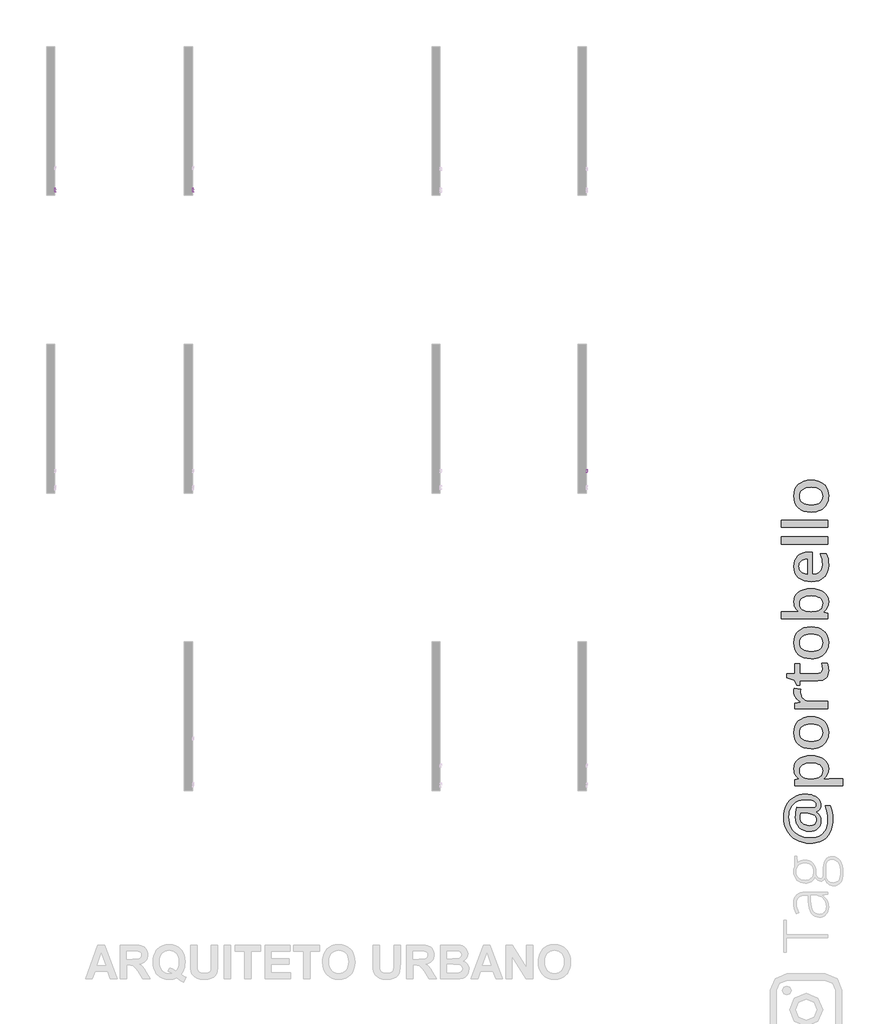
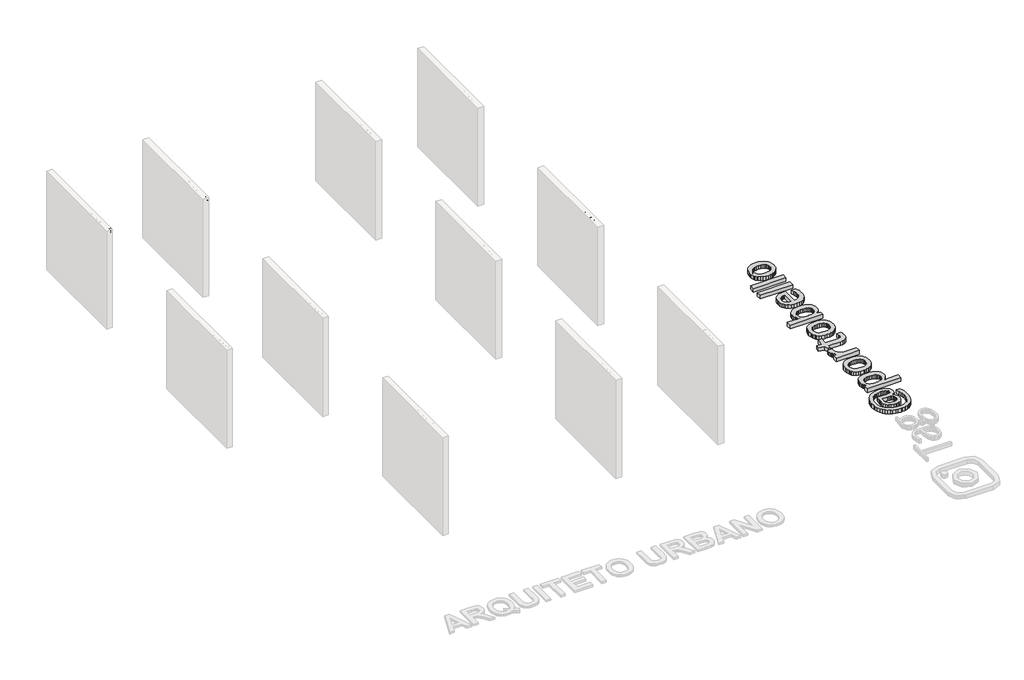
# One storey, part 5 of 8: 4 proxies.
"""IFC4 building model written with IfcOpenShell, lengths in millimetres."""

from ifc_helpers import new_model, si_unit, frame, origin, origin_with_axes, place, context, project, spatial, polyline, outline, extrude, element, save

model = new_model("IFC4")

# Units and contexts
model_context = context("Model", 3, world=origin())
ifc_project = project(units=[si_unit("LENGTHUNIT", "METRE", prefix="MILLI")], contexts=[model_context])

# Site, building, storey
site = spatial("IfcSite", under=ifc_project)
building = spatial("IfcBuilding", under=site)
storey = spatial("IfcBuildingStorey", under=building, Name="PORTOBELLO - SHOWROOM", Elevation=0.0)

# Proxies
placement = place(None, origin())
element("IfcBuildingElementProxy", 1, Name="10mm Arial", ObjectType="10mm Arial", at=placement, inside=storey, context=model_context, shape_type="SweptSolid", body=[
    extrude(outline(polyline([(1630.3795747, 2583.362681), (1642.9366134, 2583.362681), (1646.9833154, 2570.7933795), (1656.8670783, 2562.8471284), (1671.9257146, 2559.8182333), (1685.0468391, 2562.1113644), (1693.5203878, 2568.4144093), (1696.3040282, 2576.838907), (1694.2193635, 2584.6747934), (1685.6845013, 2590.3769644), (1667.4007661, 2595.171693), (1647.7190794, 2601.3643733), (1637.0382388, 2610.708576), (1633.5188343, 2623.1920383), (1637.8721046, 2637.4045461), (1650.5885589, 2647.4354618), (1669.2033879, 2650.8567644), (1689.0690156, 2647.2760463), (1702.3127674, 2636.7546212), (1707.2914371, 2621.0337973), (1694.7343983, 2621.0337973), (1692.4290045, 2628.5263273), (1687.6220131, 2633.9341926), (1669.6938972, 2638.2997256), (1651.7167304, 2633.9832435), (1646.0758731, 2623.5599203), (1650.0735241, 2614.8533798), (1670.576814, 2607.8390964), (1692.7968865, 2601.5360516), (1704.9492551, 2591.357983), (1708.861067, 2577.157738), (1704.3606439, 2562.1358899), (1691.4111977, 2551.1730064), (1672.416224, 2547.2611945), (1649.987685, 2551.4795748), (1635.7997027, 2564.1837663), (1630.3795747, 2583.362681)])), frame((-16732.9960483, 0.0, 0.0), z_axis=(1.0, 0.0, 0.0), x_axis=(0.0, 1.0, 0.0)), (0.0, 0.0, 1.0), 20.0),
    extrude(outline(polyline([(1773.2158906, 2558.2486035), (1761.0389966, 2549.7382666), (1747.5867783, 2547.2611945), (1737.0929444, 2548.7511166), (1729.3520941, 2553.2208829), (1724.5788252, 2560.0083057), (1722.9877356, 2568.4511975), (1725.3912313, 2578.3840113), (1731.7065389, 2585.5944984), (1740.4989185, 2589.7147768), (1751.3637001, 2591.6032377), (1773.1423142, 2595.9197198), (1773.2158906, 2598.7156229), (1769.7577999, 2607.9862492), (1755.8763859, 2611.6160182), (1743.1721944, 2609.2002598), (1737.1144042, 2600.6286093), (1724.5573654, 2602.1982392), (1729.9897562, 2614.4609723), (1740.9281142, 2621.646934), (1757.4950667, 2624.173057), (1772.7131186, 2621.9412396), (1781.3092945, 2616.3371705), (1785.1597928, 2607.8145709), (1785.7729294, 2596.827162), (1785.7729294, 2581.20444), (1786.4105915, 2559.3890376), (1788.9121891, 2548.8308244), (1776.3551503, 2548.8308244), (1773.2158906, 2558.2486035)]), holes=[polyline([(1773.2158906, 2583.362681), (1752.9578554, 2579.5121828), (1742.1543875, 2577.4765691), (1737.261557, 2574.1656311), (1735.5447743, 2569.3341142), (1739.284908, 2562.5405601), (1750.2600541, 2559.8182333), (1762.9642457, 2562.8226029), (1771.1557515, 2570.0944037), (1773.1423142, 2579.8064884), (1773.2158906, 2583.362681)])]), frame((-16732.9960483, 0.0, 0.0), z_axis=(1.0, 0.0, 0.0), x_axis=(0.0, 1.0, 0.0)), (0.0, 0.0, 1.0), 20.0),
    extrude(outline(polyline([(1806.1781174, 2548.8308244), (1806.1781174, 2610.0463884), (1795.1907085, 2610.0463884), (1795.1907085, 2622.6034272), (1806.1781174, 2622.6034272), (1806.1781174, 2630.0346435), (1807.5024926, 2640.5070176), (1813.9281648, 2647.9872848), (1826.5833054, 2650.8567644), (1838.0366982, 2649.4833383), (1836.1972882, 2637.7111144), (1828.9622756, 2638.2997256), (1821.0528128, 2636.215061), (1818.7351562, 2628.4404881), (1818.7351562, 2622.6034272), (1832.8618248, 2622.6034272), (1832.8618248, 2610.0463884), (1818.7351562, 2610.0463884), (1818.7351562, 2548.8308244), (1806.1781174, 2548.8308244)])), frame((-16732.9960483, 0.0, 0.0), z_axis=(1.0, 0.0, 0.0), x_axis=(0.0, 1.0, 0.0)), (0.0, 0.0, 1.0), 20.0),
    extrude(outline(polyline([(-16712.9960483, 1856.4062725), (-16712.9960483, 1843.8492337), (-16732.9960483, 1843.8492337), (-16732.9960483, 1856.4062725), (-16712.9960483, 1856.4062725)])), frame((0.0, 0.0, 2636.7300958), z_axis=(0.0, 0.0, 1.0), x_axis=(1.0, 0.0, 0.0)), (0.0, 0.0, 1.0), 12.5570388),
    extrude(outline(polyline([(-16712.9960483, 1856.4062725), (-16712.9960483, 1843.8492337), (-16732.9960483, 1843.8492337), (-16732.9960483, 1856.4062725), (-16712.9960483, 1856.4062725)])), frame((0.0, 0.0, 2548.8308244), z_axis=(0.0, 0.0, 1.0), x_axis=(1.0, 0.0, 0.0)), (0.0, 0.0, 1.0), 73.7726028),
    extrude(outline(polyline([(1875.2418306, 2548.8308244), (1875.2418306, 2622.6034272), (1886.2292396, 2622.6034272), (1886.2292396, 2611.6895946), (1894.0283379, 2621.7450358), (1901.8764871, 2624.173057), (1914.4825768, 2620.2980333), (1910.288722, 2609.0408443), (1901.4595542, 2611.6160182), (1894.3594317, 2609.1389461), (1889.8344831, 2602.2718156), (1887.7988694, 2587.6055867), (1887.7988694, 2548.8308244), (1875.2418306, 2548.8308244)])), frame((-16732.9960483, 0.0, 0.0), z_axis=(1.0, 0.0, 0.0), x_axis=(0.0, 1.0, 0.0)), (0.0, 0.0, 1.0), 20.0),
    extrude(outline(polyline([(1969.4196214, 2558.2486035), (1957.2427274, 2549.7382666), (1943.7905091, 2547.2611945), (1933.2966752, 2548.7511166), (1925.5558248, 2553.2208829), (1920.782556, 2560.0083057), (1919.1914663, 2568.4511975), (1921.594962, 2578.3840113), (1927.9102696, 2585.5944984), (1936.7026493, 2589.7147768), (1947.5674309, 2591.6032377), (1969.346045, 2595.9197198), (1969.4196214, 2598.7156229), (1965.9615307, 2607.9862492), (1952.0801167, 2611.6160182), (1939.3759251, 2609.2002598), (1933.3181349, 2600.6286093), (1920.7610962, 2602.1982392), (1926.193487, 2614.4609723), (1937.131845, 2621.646934), (1953.6987975, 2624.173057), (1968.9168493, 2621.9412396), (1977.5130253, 2616.3371705), (1981.3635235, 2607.8145709), (1981.9766602, 2596.827162), (1981.9766602, 2581.20444), (1982.6143223, 2559.3890376), (1985.1159199, 2548.8308244), (1972.5588811, 2548.8308244), (1969.4196214, 2558.2486035)]), holes=[polyline([(1969.4196214, 2583.362681), (1949.1615862, 2579.5121828), (1938.3581183, 2577.4765691), (1933.4652877, 2574.1656311), (1931.7485051, 2569.3341142), (1935.4886387, 2562.5405601), (1946.4637849, 2559.8182333), (1959.1679765, 2562.8226029), (1967.3594822, 2570.0944037), (1969.346045, 2579.8064884), (1969.4196214, 2583.362681)])]), frame((-16732.9960483, 0.0, 0.0), z_axis=(1.0, 0.0, 0.0), x_axis=(0.0, 1.0, 0.0)), (0.0, 0.0, 1.0), 20.0),
])
element("IfcBuildingElementProxy", 2, Name="10mm Arial", ObjectType="10mm Arial", at=placement, inside=storey, context=model_context, shape_type="SweptSolid", body=[
    extrude(outline(polyline([(1630.3795747, 2583.362681), (1642.9366134, 2583.362681), (1646.9833154, 2570.7933795), (1656.8670783, 2562.8471284), (1671.9257146, 2559.8182333), (1685.0468391, 2562.1113644), (1693.5203878, 2568.4144093), (1696.3040282, 2576.838907), (1694.2193635, 2584.6747934), (1685.6845013, 2590.3769644), (1667.4007661, 2595.171693), (1647.7190794, 2601.3643733), (1637.0382388, 2610.708576), (1633.5188343, 2623.1920383), (1637.8721046, 2637.4045461), (1650.5885589, 2647.4354618), (1669.2033879, 2650.8567644), (1689.0690156, 2647.2760463), (1702.3127674, 2636.7546212), (1707.2914371, 2621.0337973), (1694.7343983, 2621.0337973), (1692.4290045, 2628.5263273), (1687.6220131, 2633.9341926), (1669.6938972, 2638.2997256), (1651.7167304, 2633.9832435), (1646.0758731, 2623.5599203), (1650.0735241, 2614.8533798), (1670.576814, 2607.8390964), (1692.7968865, 2601.5360516), (1704.9492551, 2591.357983), (1708.861067, 2577.157738), (1704.3606439, 2562.1358899), (1691.4111977, 2551.1730064), (1672.416224, 2547.2611945), (1649.987685, 2551.4795748), (1635.7997027, 2564.1837663), (1630.3795747, 2583.362681)])), frame((-19232.9960483, 0.0, 0.0), z_axis=(1.0, 0.0, 0.0), x_axis=(0.0, 1.0, 0.0)), (0.0, 0.0, 1.0), 20.0),
    extrude(outline(polyline([(1773.2158906, 2558.2486035), (1761.0389966, 2549.7382666), (1747.5867783, 2547.2611945), (1737.0929444, 2548.7511166), (1729.3520941, 2553.2208829), (1724.5788252, 2560.0083057), (1722.9877356, 2568.4511975), (1725.3912313, 2578.3840113), (1731.7065389, 2585.5944984), (1740.4989185, 2589.7147768), (1751.3637001, 2591.6032377), (1773.1423142, 2595.9197198), (1773.2158906, 2598.7156229), (1769.7577999, 2607.9862492), (1755.8763859, 2611.6160182), (1743.1721944, 2609.2002598), (1737.1144042, 2600.6286093), (1724.5573654, 2602.1982392), (1729.9897562, 2614.4609723), (1740.9281142, 2621.646934), (1757.4950667, 2624.173057), (1772.7131186, 2621.9412396), (1781.3092945, 2616.3371705), (1785.1597928, 2607.8145709), (1785.7729294, 2596.827162), (1785.7729294, 2581.20444), (1786.4105915, 2559.3890376), (1788.9121891, 2548.8308244), (1776.3551503, 2548.8308244), (1773.2158906, 2558.2486035)]), holes=[polyline([(1773.2158906, 2583.362681), (1752.9578554, 2579.5121828), (1742.1543875, 2577.4765691), (1737.261557, 2574.1656311), (1735.5447743, 2569.3341142), (1739.284908, 2562.5405601), (1750.2600541, 2559.8182333), (1762.9642457, 2562.8226029), (1771.1557515, 2570.0944037), (1773.1423142, 2579.8064884), (1773.2158906, 2583.362681)])]), frame((-19232.9960483, 0.0, 0.0), z_axis=(1.0, 0.0, 0.0), x_axis=(0.0, 1.0, 0.0)), (0.0, 0.0, 1.0), 20.0),
    extrude(outline(polyline([(1806.1781174, 2548.8308244), (1806.1781174, 2610.0463884), (1795.1907085, 2610.0463884), (1795.1907085, 2622.6034272), (1806.1781174, 2622.6034272), (1806.1781174, 2630.0346435), (1807.5024926, 2640.5070176), (1813.9281648, 2647.9872848), (1826.5833054, 2650.8567644), (1838.0366982, 2649.4833383), (1836.1972882, 2637.7111144), (1828.9622756, 2638.2997256), (1821.0528128, 2636.215061), (1818.7351562, 2628.4404881), (1818.7351562, 2622.6034272), (1832.8618248, 2622.6034272), (1832.8618248, 2610.0463884), (1818.7351562, 2610.0463884), (1818.7351562, 2548.8308244), (1806.1781174, 2548.8308244)])), frame((-19232.9960483, 0.0, 0.0), z_axis=(1.0, 0.0, 0.0), x_axis=(0.0, 1.0, 0.0)), (0.0, 0.0, 1.0), 20.0),
    extrude(outline(polyline([(-19212.9960483, 1856.4062725), (-19212.9960483, 1843.8492337), (-19232.9960483, 1843.8492337), (-19232.9960483, 1856.4062725), (-19212.9960483, 1856.4062725)])), frame((0.0, 0.0, 2636.7300958), z_axis=(0.0, 0.0, 1.0), x_axis=(1.0, 0.0, 0.0)), (0.0, 0.0, 1.0), 12.5570388),
    extrude(outline(polyline([(-19212.9960483, 1856.4062725), (-19212.9960483, 1843.8492337), (-19232.9960483, 1843.8492337), (-19232.9960483, 1856.4062725), (-19212.9960483, 1856.4062725)])), frame((0.0, 0.0, 2548.8308244), z_axis=(0.0, 0.0, 1.0), x_axis=(1.0, 0.0, 0.0)), (0.0, 0.0, 1.0), 73.7726028),
    extrude(outline(polyline([(1875.2418306, 2548.8308244), (1875.2418306, 2622.6034272), (1886.2292396, 2622.6034272), (1886.2292396, 2611.6895946), (1894.0283379, 2621.7450358), (1901.8764871, 2624.173057), (1914.4825768, 2620.2980333), (1910.288722, 2609.0408443), (1901.4595542, 2611.6160182), (1894.3594317, 2609.1389461), (1889.8344831, 2602.2718156), (1887.7988694, 2587.6055867), (1887.7988694, 2548.8308244), (1875.2418306, 2548.8308244)])), frame((-19232.9960483, 0.0, 0.0), z_axis=(1.0, 0.0, 0.0), x_axis=(0.0, 1.0, 0.0)), (0.0, 0.0, 1.0), 20.0),
    extrude(outline(polyline([(1969.4196214, 2558.2486035), (1957.2427274, 2549.7382666), (1943.7905091, 2547.2611945), (1933.2966752, 2548.7511166), (1925.5558248, 2553.2208829), (1920.782556, 2560.0083057), (1919.1914663, 2568.4511975), (1921.594962, 2578.3840113), (1927.9102696, 2585.5944984), (1936.7026493, 2589.7147768), (1947.5674309, 2591.6032377), (1969.346045, 2595.9197198), (1969.4196214, 2598.7156229), (1965.9615307, 2607.9862492), (1952.0801167, 2611.6160182), (1939.3759251, 2609.2002598), (1933.3181349, 2600.6286093), (1920.7610962, 2602.1982392), (1926.193487, 2614.4609723), (1937.131845, 2621.646934), (1953.6987975, 2624.173057), (1968.9168493, 2621.9412396), (1977.5130253, 2616.3371705), (1981.3635235, 2607.8145709), (1981.9766602, 2596.827162), (1981.9766602, 2581.20444), (1982.6143223, 2559.3890376), (1985.1159199, 2548.8308244), (1972.5588811, 2548.8308244), (1969.4196214, 2558.2486035)]), holes=[polyline([(1969.4196214, 2583.362681), (1949.1615862, 2579.5121828), (1938.3581183, 2577.4765691), (1933.4652877, 2574.1656311), (1931.7485051, 2569.3341142), (1935.4886387, 2562.5405601), (1946.4637849, 2559.8182333), (1959.1679765, 2562.8226029), (1967.3594822, 2570.0944037), (1969.346045, 2579.8064884), (1969.4196214, 2583.362681)])]), frame((-19232.9960483, 0.0, 0.0), z_axis=(1.0, 0.0, 0.0), x_axis=(0.0, 1.0, 0.0)), (0.0, 0.0, 1.0), 20.0),
])
element("IfcBuildingElementProxy", 3, Name="10mm Arial Narrow", ObjectType="10mm Arial Narrow", at=placement, inside=storey, context=model_context, shape_type="SweptSolid", body=[
    extrude(outline(polyline([(-3457.7764767, 2548.8308244), (-3457.7764767, 2649.5494281), (-3426.479592, 2649.5494281), (-3410.1838905, 2647.6711074), (-3398.7109044, 2638.1906642), (-3394.4212259, 2621.1715554), (-3396.2075343, 2609.0957299), (-3401.5664595, 2599.4693361), (-3411.3102484, 2593.1680777), (-3426.2511476, 2591.0676582), (-3448.029515, 2591.0676582), (-3448.029515, 2548.8308244), (-3457.7764767, 2548.8308244)]), holes=[polyline([(-3448.029515, 2602.4391135), (-3425.0581601, 2602.4391135), (-3409.1939647, 2606.9699277), (-3404.1681876, 2620.6385184), (-3406.6430021, 2630.8042949), (-3412.6206309, 2636.6042447), (-3425.2866045, 2638.1779729), (-3448.029515, 2638.1779729), (-3448.029515, 2602.4391135)])]), frame((-9585.374587, 0.0, 0.0), z_axis=(1.0, 0.0, 0.0), x_axis=(0.0, 1.0, 0.0)), (0.0, 0.0, 1.0), 20.0),
    extrude(outline(polyline([(-3386.2987579, 2585.3819306), (-3384.344289, 2601.9727061), (-3378.4808824, 2613.9247909), (-3369.6223157, 2621.1493455), (-3358.6823665, 2623.5575304), (-3347.869331, 2621.1493455), (-3338.9853815, 2613.9247909), (-3333.0458268, 2602.1630765), (-3331.0659752, 2586.143412), (-3333.0109255, 2568.9815254), (-3338.8457766, 2556.8390702), (-3347.6948248, 2549.6145156), (-3358.6823665, 2547.2063308), (-3369.5429947, 2549.6208613), (-3378.4174256, 2556.8644529), (-3384.3284248, 2568.8228834), (-3386.2987579, 2585.3819306)]), holes=[polyline([(-3376.5517962, 2585.4073133), (-3375.2477594, 2572.8555619), (-3371.3356488, 2563.9843038), (-3365.494452, 2558.7110453), (-3358.4031567, 2556.9532924), (-3351.6830835, 2558.7269095), (-3345.9910102, 2564.0477606), (-3342.1074552, 2572.9348829), (-3340.8129368, 2585.4073133), (-3342.1169737, 2597.9209906), (-3346.0290843, 2606.7795573), (-3351.870281, 2612.0528159), (-3358.9615764, 2613.8105687), (-3365.7292421, 2612.0432974), (-3371.4117969, 2606.7414833), (-3375.2667964, 2597.873398), (-3376.5517962, 2585.4073133)])]), frame((-9585.374587, 0.0, 0.0), z_axis=(1.0, 0.0, 0.0), x_axis=(0.0, 1.0, 0.0)), (0.0, 0.0, 1.0), 20.0),
    extrude(outline(polyline([(-3259.5882564, 2556.9532924), (-3257.9637628, 2547.2063308), (-3265.3247495, 2547.2063308), (-3273.5995138, 2549.3257873), (-3277.9145749, 2555.1257371), (-3279.0821797, 2569.7715623), (-3279.0821797, 2612.1860751), (-3287.2046478, 2612.1860751), (-3287.2046478, 2615.4350624), (-3288.8291414, 2610.5615815), (-3296.3931897, 2612.1860751), (-3302.4723494, 2609.8635569), (-3306.3432131, 2603.3782738), (-3308.3230647, 2587.9709673), (-3308.3230647, 2548.8308244), (-3318.0700263, 2548.8308244), (-3318.0700263, 2621.9330368), (-3308.3230647, 2621.9330368), (-3308.3230647, 2612.2368406), (-3302.0789174, 2621.3238517), (-3295.6824738, 2623.5575304), (-3287.2046478, 2621.9330368), (-3279.0821797, 2621.9330368), (-3279.0821797, 2638.1779729), (-3269.3352181, 2646.3004409), (-3269.3352181, 2621.9330368), (-3259.5882564, 2621.9330368), (-3259.5882564, 2612.1860751), (-3269.3352181, 2612.1860751), (-3269.3352181, 2567.5378836), (-3268.4722058, 2559.5423291), (-3263.8525521, 2556.9532924), (-3259.5882564, 2556.9532924)])), frame((-9585.374587, 0.0, 0.0), z_axis=(1.0, 0.0, 0.0), x_axis=(0.0, 1.0, 0.0)), (0.0, 0.0, 1.0), 20.0),
    extrude(outline(polyline([(-3253.090282, 2585.3819306), (-3251.1358131, 2601.9727061), (-3245.2724065, 2613.9247909), (-3236.4138398, 2621.1493455), (-3225.4738906, 2623.5575304), (-3214.660855, 2621.1493455), (-3205.7769056, 2613.9247909), (-3199.8373508, 2602.1630765), (-3197.8574993, 2586.143412), (-3199.8024496, 2568.9815254), (-3205.6373007, 2556.8390702), (-3214.4863489, 2549.6145156), (-3225.4738906, 2547.2063308), (-3236.3345188, 2549.6208613), (-3245.2089497, 2556.8644529), (-3251.1199489, 2568.8228834), (-3253.090282, 2585.3819306)]), holes=[polyline([(-3243.3433203, 2585.4073133), (-3242.0392834, 2572.8555619), (-3238.1271729, 2563.9843038), (-3232.2859761, 2558.7110453), (-3225.1946808, 2556.9532924), (-3218.4746076, 2558.7269095), (-3212.7825343, 2564.0477606), (-3208.8989793, 2572.9348829), (-3207.6044609, 2585.4073133), (-3208.9084978, 2597.9209906), (-3212.8206084, 2606.7795573), (-3218.6618051, 2612.0528159), (-3225.7531005, 2613.8105687), (-3232.5207662, 2612.0432974), (-3238.203321, 2606.7414833), (-3242.0583205, 2597.873398), (-3243.3433203, 2585.4073133)])]), frame((-9585.374587, 0.0, 0.0), z_axis=(1.0, 0.0, 0.0), x_axis=(0.0, 1.0, 0.0)), (0.0, 0.0, 1.0), 20.0),
    extrude(outline(polyline([(-3175.1145887, 2548.8308244), (-3184.8615504, 2548.8308244), (-3184.8615504, 2649.5494281), (-3175.1145887, 2649.5494281), (-3175.1145887, 2614.140544), (-3167.715528, 2621.2223208), (-3158.5142947, 2623.5575304), (-3145.632568, 2619.3566915), (-3136.3551865, 2606.6272611), (-3132.8777549, 2585.9403503), (-3134.8100139, 2569.4860068), (-3140.6067909, 2557.2832677), (-3148.9799132, 2549.725565), (-3158.6412082, 2547.2063308), (-3167.9820465, 2549.8207502), (-3175.1145887, 2557.5878602), (-3175.1145887, 2548.8308244)]), holes=[polyline([(-3175.1145887, 2585.9403503), (-3173.0332063, 2568.692797), (-3167.144417, 2559.9611439), (-3158.6919737, 2556.9532924), (-3152.7492461, 2558.7427737), (-3147.5108887, 2564.1112174), (-3142.6247166, 2585.5342269), (-3147.3332098, 2606.9699277), (-3152.5779128, 2612.1004085), (-3158.8950354, 2613.8105687), (-3164.8726642, 2612.0210875), (-3170.1649598, 2606.6526438), (-3175.1145887, 2585.9403503)])]), frame((-9585.374587, 0.0, 0.0), z_axis=(1.0, 0.0, 0.0), x_axis=(0.0, 1.0, 0.0)), (0.0, 0.0, 1.0), 20.0),
    extrude(outline(polyline([(-3080.8939594, 2571.5737349), (-3071.1469978, 2569.9492413), (-3074.8465281, 2560.0626747), (-3080.665515, 2552.9428238), (-3088.3691683, 2548.640454), (-3097.7226979, 2547.2063308), (-3109.3162519, 2549.6208613), (-3118.4603741, 2556.8644529), (-3124.3999289, 2568.6705872), (-3126.3797805, 2584.7727455), (-3124.3904104, 2601.4396692), (-3118.4223001, 2613.6201984), (-3109.4082642, 2621.0731974), (-3098.2811176, 2623.5575304), (-3087.5981684, 2621.1588641), (-3078.8506511, 2613.962865), (-3073.0158, 2602.2233604), (-3071.0708496, 2586.1941774), (-3071.1469978, 2582.9451902), (-3116.6328188, 2582.9451902), (-3110.6298073, 2563.5020323), (-3104.699771, 2558.5904774), (-3097.5957843, 2556.9532924), (-3087.4173166, 2560.608403), (-3080.8939594, 2571.5737349)]), holes=[polyline([(-3115.9728683, 2592.6921518), (-3080.8939594, 2592.6921518), (-3085.1582551, 2606.9572363), (-3090.9835877, 2612.0972356), (-3098.2049694, 2613.8105687), (-3110.4140542, 2608.0994584), (-3115.9728683, 2592.6921518)])]), frame((-9585.374587, 0.0, 0.0), z_axis=(1.0, 0.0, 0.0), x_axis=(0.0, 1.0, 0.0)), (0.0, 0.0, 1.0), 20.0),
    extrude(outline(polyline([(-9565.374587, -3048.4040872), (-9565.374587, -3058.1510489), (-9585.374587, -3058.1510489), (-9585.374587, -3048.4040872), (-9565.374587, -3048.4040872)])), frame((0.0, 0.0, 2548.8308244), z_axis=(0.0, 0.0, 1.0), x_axis=(1.0, 0.0, 0.0)), (0.0, 0.0, 1.0), 100.7186038),
    extrude(outline(polyline([(-9565.374587, -3022.4121895), (-9565.374587, -3032.1591512), (-9585.374587, -3032.1591512), (-9585.374587, -3022.4121895), (-9565.374587, -3022.4121895)])), frame((0.0, 0.0, 2548.8308244), z_axis=(0.0, 0.0, 1.0), x_axis=(1.0, 0.0, 0.0)), (0.0, 0.0, 1.0), 100.7186038),
    extrude(outline(polyline([(-3011.0407342, 2585.3819306), (-3009.0862654, 2601.9727061), (-3003.2228587, 2613.9247909), (-2994.364292, 2621.1493455), (-2983.4243429, 2623.5575304), (-2972.6113073, 2621.1493455), (-2963.7273579, 2613.9247909), (-2957.7878031, 2602.1630765), (-2955.8079515, 2586.143412), (-2957.7529019, 2568.9815254), (-2963.587753, 2556.8390702), (-2972.4368012, 2549.6145156), (-2983.4243429, 2547.2063308), (-2994.2849711, 2549.6208613), (-3003.159402, 2556.8644529), (-3009.0704012, 2568.8228834), (-3011.0407342, 2585.3819306)]), holes=[polyline([(-3001.2937726, 2585.4073133), (-2999.9897357, 2572.8555619), (-2996.0776251, 2563.9843038), (-2990.2364284, 2558.7110453), (-2983.145133, 2556.9532924), (-2976.4250599, 2558.7269095), (-2970.7329866, 2564.0477606), (-2966.8494315, 2572.9348829), (-2965.5549132, 2585.4073133), (-2966.85895, 2597.9209906), (-2970.7710606, 2606.7795573), (-2976.6122574, 2612.0528159), (-2983.7035527, 2613.8105687), (-2990.4712185, 2612.0432974), (-2996.1537733, 2606.7414833), (-3000.0087728, 2597.873398), (-3001.2937726, 2585.4073133)])]), frame((-9585.374587, 0.0, 0.0), z_axis=(1.0, 0.0, 0.0), x_axis=(0.0, 1.0, 0.0)), (0.0, 0.0, 1.0), 20.0),
])
element("IfcBuildingElementProxy", 4, Name="80mm OpenSans Bold", ObjectType="80mm OpenSans Bold", at=placement, inside=storey, context=model_context, shape_type="SweptSolid", body=[
    extrude(outline(polyline([(-5603.9775543, -9289.9050274), (-5565.8719396, -9291.4523873), (-5529.4338681, -9296.0944669), (-5494.6633397, -9303.8312662), (-5461.5603545, -9314.6627853), (-5431.0788674, -9328.3035888), (-5404.1728331, -9344.4682415), (-5380.8422518, -9363.1567432), (-5361.0871233, -9384.369094), (-5345.3656466, -9407.7146983), (-5334.1360204, -9432.8029603), (-5327.3982446, -9459.63388), (-5325.1523194, -9488.2074574), (-5330.8610257, -9528.8294097), (-5337.9969086, -9546.9770867), (-5347.9871446, -9563.6825641), (-5360.4110923, -9578.3599485), (-5374.8481102, -9590.4233463), (-5391.2981981, -9599.8727576), (-5409.7613562, -9606.7081822), (-5409.7613562, -9613.4384465), (-5372.7449026, -9643.6044526), (-5346.3045786, -9680.2603563), (-5330.4403842, -9722.6249663), (-5325.1523194, -9769.9170913), (-5328.7052379, -9812.5821596), (-5339.3639935, -9850.4398962), (-5357.1285862, -9883.4903012), (-5381.999016, -9911.7333746), (-5412.9387019, -9934.3428562), (-5448.9110632, -9950.4924859), (-5489.9160997, -9960.1822637), (-5535.9538116, -9963.4121897), (-5589.0973606, -9959.1306599), (-5636.9979135, -9946.2860707), (-5679.6554703, -9924.878422), (-5717.070031, -9894.9077139), (-5747.5139609, -9857.7260082), (-5769.2596251, -9814.6853672), (-5782.3070236, -9765.7857907), (-5786.6561565, -9711.0272788), (-5784.8233613, -9666.7096902), (-5779.3249757, -9617.8852283), (-5770.5816413, -9569.6616828), (-5759.0139996, -9527.1468437), (-5507.8309216, -9539.4055393), (-5495.0914927, -9539.4055393), (-5457.2337561, -9535.8000406), (-5430.1925156, -9524.9835444), (-5420.7280815, -9516.8711723), (-5413.9677713, -9506.9560508), (-5408.5595233, -9481.7175597), (-5412.0223043, -9460.9634076), (-5422.4106475, -9442.4476694), (-5439.7245529, -9426.1703449), (-5463.9640204, -9412.1314342), (-5493.5666672, -9400.8266934), (-5526.9701106, -9392.7518786), (-5564.1743506, -9387.9069897), (-5605.1793872, -9386.2920267), (-5650.2706557, -9388.7107154), (-5692.5225939, -9395.9667816), (-5731.9352018, -9408.0602253), (-5768.5084795, -9424.9910464), (-5801.649022, -9446.3836722), (-5830.7634242, -9471.8625298), (-5855.8516862, -9501.4276194), (-5876.913808, -9535.0789409), (-5893.5817281, -9572.0803715), (-5905.4873854, -9611.6957888), (-5912.6307797, -9653.9251927), (-5915.0119112, -9698.7685831), (-5912.0223518, -9755.7429744), (-5903.0536737, -9808.8865234), (-5888.1058769, -9858.1992299), (-5867.1789614, -9903.6810941), (-5840.7010801, -9944.6711078), (-5809.1003861, -9980.5082628), (-5772.3768792, -10011.1925593), (-5730.5305596, -10036.7239971), (-5684.3426186, -10056.8096296), (-5634.5942476, -10071.15651), (-5581.2854467, -10079.7646382), (-5524.4162157, -10082.6340143), (-5450.2405908, -10077.2783464), (-5385.1538273, -10061.2113427), (-5356.0187686, -10049.1610899), (-5329.1559252, -10034.4330032), (-5304.5652972, -10017.0270825), (-5282.2468845, -9996.9433278), (-5262.3884735, -9974.3582585), (-5245.1778507, -9949.4483936), (-5230.615016, -9922.2137331), (-5218.6999694, -9892.6542772), (-5202.8132407, -9826.5609786), (-5197.5176644, -9751.1684979), (-5200.6123841, -9689.454378), (-5209.8965434, -9626.418242), (-5225.3701421, -9562.0600897), (-5247.0331803, -9496.3799212), (-5156.8957121, -9496.3799212), (-5136.2842777, -9555.6002378), (-5121.5618245, -9617.4044951), (-5112.7283527, -9681.7926932), (-5109.783862, -9748.7648321), (-5111.4795732, -9798.3798747), (-5116.5667065, -9845.1893887), (-5125.0452621, -9889.1933739), (-5136.91524, -9930.3918305), (-5152.17664, -9968.7847584), (-5170.8294624, -10004.3721575), (-5192.8737069, -10037.154028), (-5218.3093737, -10067.1303697), (-5246.7796686, -10093.9180986), (-5277.9277975, -10117.1341302), (-5311.7537603, -10136.7784647), (-5348.257557, -10152.851102), (-5387.4391877, -10165.3520421), (-5429.2986524, -10174.281285), (-5473.835951, -10179.6388308), (-5521.0510836, -10181.4246794), (-5590.1189185, -10177.5637912), (-5655.2657737, -10165.9811265), (-5716.4916489, -10146.6766854), (-5773.7965443, -10119.6504679), (-5825.896001, -10085.7738027), (-5871.5055599, -10045.9180189), (-5910.6252211, -10000.0831163), (-5943.2549845, -9948.269095), (-5968.9666973, -9891.6477421), (-5987.3322065, -9831.3908446), (-5998.351512, -9767.4984026), (-6002.0246138, -9699.970416), (-5998.9599399, -9641.749123), (-5989.7659181, -9586.7878018), (-5974.4425485, -9535.0864523), (-5952.9898311, -9486.6450746), (-5925.8734761, -9442.4626923), (-5893.5591937, -9403.5383289), (-5856.0469841, -9369.8719846), (-5813.3368471, -9341.4636592), (-5766.2700658, -9318.9067578), (-5715.6879232, -9302.7946853), (-5661.5904194, -9293.1274419), (-5603.9775543, -9289.9050274)]), holes=[polyline([(-5534.030879, -9858.1316268), (-5504.62353, -9856.542954), (-5479.1371608, -9851.7769353), (-5457.5717716, -9843.8335709), (-5439.9273622, -9832.7128608), (-5426.2039327, -9818.4148049), (-5416.401483, -9800.9394033), (-5410.5200132, -9780.2866559), (-5408.5595233, -9756.4565627), (-5411.0232807, -9731.1730029), (-5418.4145531, -9708.9240712), (-5430.7333404, -9689.7097675), (-5447.9796427, -9673.530092), (-5470.1534598, -9660.3850445), (-5497.2547919, -9650.2746252), (-5529.283639, -9643.1988339), (-5566.2400009, -9639.1576708), (-5694.8361222, -9632.4274065), (-5701.6865698, -9668.7227604), (-5703.9700523, -9707.42178), (-5701.1081877, -9741.0355442), (-5692.5225939, -9770.7283285), (-5678.2132708, -9796.500133), (-5658.1802185, -9818.3509575), (-5633.2496971, -9835.7550004), (-5604.2479667, -9848.1864595), (-5571.1750273, -9855.645335), (-5534.030879, -9858.1316268)])]), origin_with_axes(), (0.0, 0.0, 1.0), 100.0),
    extrude(outline(polyline([(-5186.7011682, -8831.2855893), (-5191.8990956, -8884.8422683), (-5207.4928776, -8932.0592787), (-5233.4825142, -8972.9366205), (-5269.8680055, -9007.4742937), (-5269.8680055, -9015.1660244), (-5175.884672, -9007.4742937), (-4925.1823272, -9007.4742937), (-4925.1823272, -9136.3107816), (-5802.0396177, -9136.3107816), (-5802.0396177, -9031.9916851), (-5724.8819449, -9013.9641914), (-5724.8819449, -9007.4742937), (-5746.5712732, -8991.6439009), (-5765.3686911, -8973.9581785), (-5781.2741985, -8954.4171265), (-5794.2877954, -8933.020745), (-5804.409482, -8909.769034), (-5811.6392581, -8884.6619933), (-5817.4230789, -8828.8819234), (-5812.2627089, -8776.07639), (-5796.7815987, -8729.4302502), (-5770.9797485, -8688.9435041), (-5734.8571581, -8654.6161516), (-5689.4203627, -8627.2744529), (-5635.6758973, -8607.7446682), (-5573.6237619, -8596.0267973), (-5503.2639565, -8592.1208403), (-5432.7313876, -8596.0944004), (-5370.4013284, -8608.0150806), (-5316.2737787, -8627.8828808), (-5270.3487387, -8655.6978012), (-5233.7529266, -8690.5133983), (-5207.6130608, -8731.3832287), (-5191.9291414, -8778.3072923), (-5186.7011682, -8831.2855893)]), holes=[polyline([(-5709.7388503, -8862.7736115), (-5706.9445888, -8897.859621), (-5698.5618042, -8927.8829093), (-5684.5904967, -8952.8434766), (-5665.0306661, -8972.7413227), (-5639.3414876, -8987.9369975), (-5606.9821366, -8998.791051), (-5567.9526128, -9005.303483), (-5522.2529165, -9007.4742937), (-5503.2639565, -9007.4742937), (-5451.9156455, -9005.3260174), (-5408.1989734, -8998.8811884), (-5372.1139403, -8988.1398068), (-5343.6605462, -8973.1018725), (-5322.1026684, -8953.1814921), (-5306.7041842, -8927.7927719), (-5297.4650937, -8896.9357119), (-5294.3853969, -8860.6103122), (-5297.7955978, -8829.6856492), (-5308.0262004, -8802.5317369), (-5325.0772048, -8779.1485754), (-5348.948611, -8759.5361646), (-5379.114617, -8744.0250086), (-5415.049421, -8732.9456115), (-5456.7530229, -8726.2979732), (-5504.2254228, -8724.0820938), (-5551.8555633, -8726.2829503), (-5593.3112872, -8732.8855198), (-5628.5925946, -8743.8898024), (-5657.6994853, -8759.295798), (-5680.4667075, -8778.9683004), (-5696.729009, -8802.7721035), (-5706.48639, -8830.7072072), (-5709.7388503, -8862.7736115)])]), origin_with_axes(), (0.0, 0.0, 1.0), 100.0),
    extrude(outline(polyline([(-5503.2639565, -7884.0008903), (-5432.7313876, -7888.8082219), (-5370.4013284, -7903.2302168), (-5316.2737787, -7927.266875), (-5270.3487387, -7960.9181964), (-5250.7438394, -7981.0902107), (-5233.7529266, -8003.1476003), (-5219.3760004, -8027.0903653), (-5207.6130608, -8052.9185056), (-5191.9291414, -8110.2309125), (-5186.7011682, -8175.0848209), (-5189.1123455, -8216.7358426), (-5196.3458773, -8255.8780382), (-5208.4017637, -8292.5114075), (-5225.2800046, -8326.6359507), (-5246.6576075, -8357.6131939), (-5272.2115797, -8384.8046635), (-5301.9419213, -8408.2103594), (-5335.8486323, -8427.8302817), (-5373.3082617, -8443.3414376), (-5413.6973589, -8454.4208348), (-5457.0159239, -8461.068473), (-5503.2639565, -8463.2843525), (-5573.2331662, -8458.5145781), (-5635.0749808, -8444.205255), (-5688.7894004, -8420.3563833), (-5734.3764249, -8386.9679627), (-5753.8404845, -8366.9104982), (-5770.7093361, -8344.8962995), (-5784.9829797, -8320.9253665), (-5796.6614154, -8294.9976994), (-5812.2326631, -8237.2721625), (-5817.4230789, -8171.7196887), (-5812.1049683, -8108.8262703), (-5796.1506365, -8052.8283682), (-5769.5600833, -8003.7259824), (-5732.333309, -7961.5191129), (-5686.1078107, -7927.6048905), (-5632.5210859, -7903.3804459), (-5571.5731345, -7888.8457792), (-5503.2639565, -7884.0008903)]), holes=[polyline([(-5503.2639565, -8330.6019993), (-5454.3080441, -8328.1382418), (-5411.8795867, -8320.7469694), (-5375.9785842, -8308.4281821), (-5346.6050368, -8291.1818799), (-5323.7589443, -8269.0080627), (-5307.4403069, -8241.9067306), (-5297.6491244, -8209.8778836), (-5294.3853969, -8172.9215216), (-5297.6491244, -8136.3031752), (-5307.4403069, -8104.5672749), (-5323.7589443, -8077.7138209), (-5346.6050368, -8055.742813), (-5375.9785842, -8038.6542513), (-5411.8795867, -8026.4481358), (-5454.3080441, -8019.1244665), (-5503.2639565, -8016.6832434), (-5551.6565097, -8019.1394894), (-5593.5967225, -8026.5082275), (-5629.0845949, -8038.7894575), (-5658.1201268, -8055.9831796), (-5680.7033183, -8078.0893936), (-5696.8341694, -8105.1080997), (-5706.5126801, -8137.0392978), (-5709.7388503, -8173.882988), (-5706.403764, -8212.2740379), (-5696.398505, -8245.0014503), (-5679.7230734, -8272.0652252), (-5656.3774691, -8293.4653624), (-5626.7973566, -8309.7126411), (-5591.4184004, -8321.3178401), (-5550.2406003, -8328.2809595), (-5503.2639565, -8330.6019993)])]), origin_with_axes(), (0.0, 0.0, 1.0), 100.0),
    extrude(outline(polyline([(-5817.4230789, -7433.3135493), (-5816.0409711, -7398.6406699), (-5811.8946476, -7370.5778715), (-5691.7113567, -7382.8365671), (-5696.7590549, -7410.2383575), (-5698.4416209, -7438.6016141), (-5695.3018325, -7474.6566014), (-5685.882467, -7507.10609), (-5670.1835247, -7535.9500798), (-5648.2050053, -7561.1885709), (-5621.2088336, -7581.6948449), (-5590.4569341, -7596.3421835), (-5555.9493067, -7605.1305866), (-5517.6859514, -7608.0600543), (-5202.0846295, -7608.0600543), (-5202.0846295, -7736.8965422), (-5802.0396177, -7736.8965422), (-5802.0396177, -7635.9425778), (-5699.8838204, -7618.8765505), (-5699.8838204, -7612.3866528), (-5725.5279301, -7596.5900615), (-5748.3777783, -7578.5250106), (-5768.433365, -7558.1915), (-5785.6946901, -7535.5895299), (-5799.5758602, -7511.3951311), (-5809.4909817, -7486.2843348), (-5815.4400546, -7460.2571409), (-5817.4230789, -7433.3135493)])), origin_with_axes(), (0.0, 0.0, 1.0), 100.0),
    extrude(outline(polyline([(-5294.3853969, -7014.3545972), (-5298.0509873, -6966.4615558), (-5309.0477584, -6918.4483311), (-5209.2956269, -6918.4483311), (-5200.462155, -6943.206089), (-5193.1910659, -6974.213378), (-5188.3236427, -7008.9463491), (-5186.7011682, -7044.8811531), (-5189.7357963, -7088.2598097), (-5198.8396806, -7125.8546453), (-5214.0128211, -7157.6656602), (-5235.2552178, -7183.6928541), (-5262.5668706, -7203.9362272), (-5295.9477797, -7218.3957794), (-5335.3979449, -7227.0715107), (-5380.9173663, -7229.9634211), (-5709.7388503, -7229.9634211), (-5709.7388503, -7313.6109916), (-5763.8213312, -7313.6109916), (-5808.5295154, -7223.9542566), (-5940.4907688, -7179.9671721), (-5940.4907688, -7100.4058335), (-5802.0396177, -7100.4058335), (-5802.0396177, -6924.6978622), (-5709.7388503, -6924.6978622), (-5709.7388503, -7100.4058335), (-5385.2439648, -7100.4058335), (-5363.5583923, -7098.9260767), (-5344.8924249, -7094.4868064), (-5329.2460627, -7087.0880226), (-5316.6193057, -7076.7297252), (-5306.8919706, -7063.9527391), (-5299.9438741, -7049.297889), (-5294.3853969, -7014.3545972)])), origin_with_axes(), (0.0, 0.0, 1.0), 100.0),
    extrude(outline(polyline([(-5503.2639565, -6253.3539991), (-5432.7313876, -6258.1613308), (-5370.4013284, -6272.5833257), (-5316.2737787, -6296.6199839), (-5270.3487387, -6330.2713053), (-5250.7438394, -6350.4433195), (-5233.7529266, -6372.5007092), (-5219.3760004, -6396.4434741), (-5207.6130608, -6422.2716145), (-5191.9291414, -6479.5840214), (-5186.7011682, -6544.4379297), (-5189.1123455, -6586.0889515), (-5196.3458773, -6625.231147), (-5208.4017637, -6661.8645164), (-5225.2800046, -6695.9890596), (-5246.6576075, -6726.9663028), (-5272.2115797, -6754.1577724), (-5301.9419213, -6777.5634683), (-5335.8486323, -6797.1833905), (-5373.3082617, -6812.6945465), (-5413.6973589, -6823.7739436), (-5457.0159239, -6830.4215819), (-5503.2639565, -6832.6374613), (-5573.2331662, -6827.867687), (-5635.0749808, -6813.5583639), (-5688.7894004, -6789.7094921), (-5734.3764249, -6756.3210716), (-5753.8404845, -6736.2636071), (-5770.7093361, -6714.2494083), (-5784.9829797, -6690.2784754), (-5796.6614154, -6664.3508082), (-5812.2326631, -6606.6252713), (-5817.4230789, -6541.0727976), (-5812.1049683, -6478.1793792), (-5796.1506365, -6422.181477), (-5769.5600833, -6373.0790912), (-5732.333309, -6330.8722218), (-5686.1078107, -6296.9579994), (-5632.5210859, -6272.7335548), (-5571.5731345, -6258.198888), (-5503.2639565, -6253.3539991)]), holes=[polyline([(-5503.2639565, -6699.9551082), (-5454.3080441, -6697.4913507), (-5411.8795867, -6690.1000783), (-5375.9785842, -6677.781291), (-5346.6050368, -6660.5349887), (-5323.7589443, -6638.3611716), (-5307.4403069, -6611.2598395), (-5297.6491244, -6579.2309924), (-5294.3853969, -6542.2746305), (-5297.6491244, -6505.656284), (-5307.4403069, -6473.9203838), (-5323.7589443, -6447.0669297), (-5346.6050368, -6425.0959218), (-5375.9785842, -6408.0073602), (-5411.8795867, -6395.8012447), (-5454.3080441, -6388.4775754), (-5503.2639565, -6386.0363523), (-5551.6565097, -6388.4925983), (-5593.5967225, -6395.8613363), (-5629.0845949, -6408.1425664), (-5658.1201268, -6425.3362884), (-5680.7033183, -6447.4425025), (-5696.8341694, -6474.4612086), (-5706.5126801, -6506.3924067), (-5709.7388503, -6543.2360968), (-5706.403764, -6581.6271468), (-5696.398505, -6614.3545592), (-5679.7230734, -6641.418334), (-5656.3774691, -6662.8184713), (-5626.7973566, -6679.0657499), (-5591.4184004, -6690.6709489), (-5550.2406003, -6697.6340684), (-5503.2639565, -6699.9551082)])]), origin_with_axes(), (0.0, 0.0, 1.0), 100.0),
    extrude(outline(polyline([(-5817.4230789, -5798.3400597), (-5812.2627089, -5745.5345263), (-5796.7815987, -5698.8883865), (-5770.9797485, -5658.4016404), (-5734.8571581, -5624.0742879), (-5689.4203627, -5596.7325892), (-5635.6758973, -5577.2028044), (-5573.6237619, -5565.4849336), (-5503.2639565, -5561.5789766), (-5432.5360898, -5565.5300023), (-5370.1008702, -5577.3830794), (-5315.9582976, -5597.1382078), (-5270.1083721, -5624.7953876), (-5233.6177204, -5659.48329), (-5207.5529692, -5700.330586), (-5191.9141185, -5747.3372756), (-5186.7011682, -5800.503359), (-5191.8990956, -5854.1651984), (-5207.4928776, -5901.4573233), (-5233.4825142, -5942.3797339), (-5269.8680055, -5976.93243), (-5269.8680055, -5985.585627), (-5202.0846295, -6009.141552), (-5202.0846295, -6105.7689179), (-6048.1749975, -6105.7689179), (-6048.1749975, -5976.93243), (-5848.1900014, -5976.93243), (-5782.2093747, -5979.0957293), (-5726.564511, -5982.2204948), (-5726.564511, -5976.93243), (-5747.8594879, -5960.8917164), (-5766.3151345, -5943.0557649), (-5781.9314508, -5923.4245755), (-5794.708437, -5901.9981481), (-5804.6460928, -5878.7764829), (-5811.7444185, -5853.7595797), (-5817.4230789, -5798.3400597)]), holes=[polyline([(-5709.7388503, -5832.2317478), (-5706.8920086, -5867.775956), (-5698.3514835, -5897.9720079), (-5684.117275, -5922.8199033), (-5664.189383, -5942.3196422), (-5637.5913185, -5957.102187), (-5603.346592, -5967.7984999), (-5561.4552037, -5974.4085809), (-5511.9171534, -5976.93243), (-5503.2639565, -5976.93243), (-5451.9156455, -5974.7841537), (-5408.1989734, -5968.3393247), (-5372.1139403, -5957.5979431), (-5343.6605462, -5942.5600088), (-5322.1026684, -5922.6396284), (-5306.7041842, -5897.2509081), (-5297.4650937, -5866.3938482), (-5294.3853969, -5830.0684485), (-5297.7580405, -5798.5578919), (-5307.8759713, -5771.0884985), (-5324.7391893, -5747.6602682), (-5348.3476945, -5728.2732011), (-5378.3259141, -5713.0775263), (-5414.2982754, -5702.2234728), (-5456.2647783, -5695.7110407), (-5504.2254228, -5693.54023), (-5552.3926324, -5695.707285), (-5594.1375473, -5702.2084499), (-5629.4601677, -5713.0437247), (-5658.3604934, -5728.2131095), (-5680.8385246, -5747.7166042), (-5696.8942611, -5771.5542088), (-5706.527703, -5799.7259233), (-5709.7388503, -5832.2317478)])]), origin_with_axes(), (0.0, 0.0, 1.0), 100.0),
    extrude(outline(polyline([(-5186.7011682, -5132.7649946), (-5191.8765612, -5199.5793929), (-5207.4027401, -5258.6870377), (-5219.0473743, -5285.3508275), (-5233.2797049, -5310.0879289), (-5250.099732, -5332.898342), (-5269.5074557, -5353.7820666), (-5314.8240678, -5388.6427324), (-5367.9676167, -5413.543208), (-5428.9381025, -5428.4834934), (-5497.7355251, -5433.4635885), (-5568.268094, -5428.8440433), (-5630.8385198, -5414.9854075), (-5685.4468026, -5391.8876813), (-5732.0929424, -5359.5508646), (-5769.4248771, -5319.1317216), (-5796.0905448, -5271.7870164), (-5812.0899454, -5217.5167491), (-5817.4230789, -5156.3209197), (-5812.9312284, -5099.6019178), (-5799.455677, -5049.14747), (-5776.9964245, -5004.9575762), (-5745.553471, -4967.0322365), (-5706.2385119, -4936.5883066), (-5660.1632428, -4914.8426424), (-5607.3276635, -4901.7952439), (-5547.7317741, -4897.446111), (-5478.9869317, -4897.446111), (-5478.9869317, -5300.7812353), (-5437.0880319, -5296.8151867), (-5400.3269678, -5287.5610733), (-5368.7037394, -5273.0188951), (-5342.2183467, -5253.1886521), (-5321.2914311, -5228.4308942), (-5306.3436343, -5199.1061712), (-5297.3749562, -5165.2144832), (-5294.3853969, -5126.7558301), (-5296.909246, -5074.9868775), (-5304.4807933, -5026.8835153), (-5317.9413219, -4978.9003364), (-5338.1321148, -4927.4919338), (-5230.2075195, -4927.4919338), (-5209.8965434, -4974.8741962), (-5196.5561981, -5022.7972834), (-5189.1649257, -5074.3859611), (-5186.7011682, -5132.7649946)]), holes=[polyline([(-5725.1223115, -5156.5612862), (-5722.6660655, -5185.5780395), (-5715.2973275, -5211.5751877), (-5703.0160975, -5234.5527306), (-5685.8223754, -5254.5106683), (-5663.9264821, -5271.1034739), (-5637.5387383, -5283.9856204), (-5606.659144, -5293.1571078), (-5571.2876992, -5298.6179361), (-5571.2876992, -5024.1192996), (-5606.8544418, -5026.8309351), (-5637.8391965, -5033.7640087), (-5664.2419632, -5044.9185204), (-5686.062742, -5060.2944702), (-5703.1513037, -5079.4261478), (-5715.3574191, -5101.847843), (-5722.6810884, -5127.5595558), (-5725.1223115, -5156.5612862)])]), origin_with_axes(), (0.0, 0.0, 1.0), 100.0),
    extrude(outline(polyline([(-5202.0846295, -4623.6685743), (-5202.0846295, -4752.5050622), (-6048.1749975, -4752.5050622), (-6048.1749975, -4623.6685743), (-5202.0846295, -4623.6685743)])), origin_with_axes(), (0.0, 0.0, 1.0), 100.0),
    extrude(outline(polyline([(-5202.0846295, -4315.9993496), (-5202.0846295, -4444.8358374), (-6048.1749975, -4444.8358374), (-6048.1749975, -4315.9993496), (-5202.0846295, -4315.9993496)])), origin_with_axes(), (0.0, 0.0, 1.0), 100.0),
    extrude(outline(polyline([(-5503.2639565, -3592.0152051), (-5432.7313876, -3596.8225367), (-5370.4013284, -3611.2445316), (-5316.2737787, -3635.2811898), (-5270.3487387, -3668.9325113), (-5250.7438394, -3689.1045255), (-5233.7529266, -3711.1619151), (-5219.3760004, -3735.1046801), (-5207.6130608, -3760.9328205), (-5191.9291414, -3818.2452273), (-5186.7011682, -3883.0991357), (-5189.1123455, -3924.7501575), (-5196.3458773, -3963.892353), (-5208.4017637, -4000.5257224), (-5225.2800046, -4034.6502655), (-5246.6576075, -4065.6275088), (-5272.2115797, -4092.8189783), (-5301.9419213, -4116.2246743), (-5335.8486323, -4135.8445965), (-5373.3082617, -4151.3557525), (-5413.6973589, -4162.4351496), (-5457.0159239, -4169.0827879), (-5503.2639565, -4171.2986673), (-5573.2331662, -4166.528893), (-5635.0749808, -4152.2195699), (-5688.7894004, -4128.3706981), (-5734.3764249, -4094.9822776), (-5753.8404845, -4074.924813), (-5770.7093361, -4052.9106143), (-5784.9829797, -4028.9396814), (-5796.6614154, -4003.0120142), (-5812.2326631, -3945.2864773), (-5817.4230789, -3879.7340036), (-5812.1049683, -3816.8405851), (-5796.1506365, -3760.842683), (-5769.5600833, -3711.7402972), (-5732.333309, -3669.5334277), (-5686.1078107, -3635.6192053), (-5632.5210859, -3611.3947608), (-5571.5731345, -3596.860094), (-5503.2639565, -3592.0152051)]), holes=[polyline([(-5503.2639565, -4038.6163141), (-5454.3080441, -4036.1525567), (-5411.8795867, -4028.7612843), (-5375.9785842, -4016.442497), (-5346.6050368, -3999.1961947), (-5323.7589443, -3977.0223775), (-5307.4403069, -3949.9210454), (-5297.6491244, -3917.8921984), (-5294.3853969, -3880.9358365), (-5297.6491244, -3844.31749), (-5307.4403069, -3812.5815898), (-5323.7589443, -3785.7281357), (-5346.6050368, -3763.7571278), (-5375.9785842, -3746.6685661), (-5411.8795867, -3734.4624507), (-5454.3080441, -3727.1387814), (-5503.2639565, -3724.6975583), (-5551.6565097, -3727.1538043), (-5593.5967225, -3734.5225423), (-5629.0845949, -3746.8037723), (-5658.1201268, -3763.9974944), (-5680.7033183, -3786.1037085), (-5696.8341694, -3813.1224146), (-5706.5126801, -3845.0536127), (-5709.7388503, -3881.8973028), (-5706.403764, -3920.2883528), (-5696.398505, -3953.0157652), (-5679.7230734, -3980.07954), (-5656.3774691, -4001.4796772), (-5626.7973566, -4017.7269559), (-5591.4184004, -4029.3321549), (-5550.2406003, -4036.2952743), (-5503.2639565, -4038.6163141)])]), origin_with_axes(), (0.0, 0.0, 1.0), 100.0),
])

save(model, "model.ifc")
